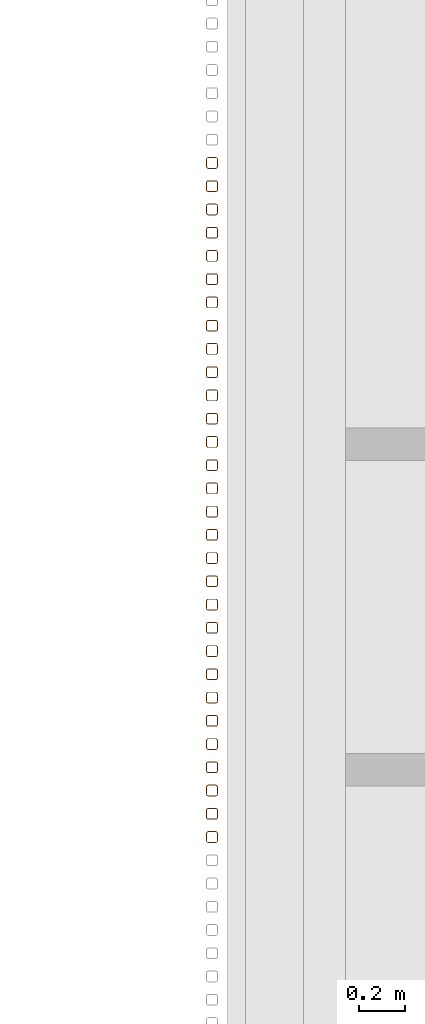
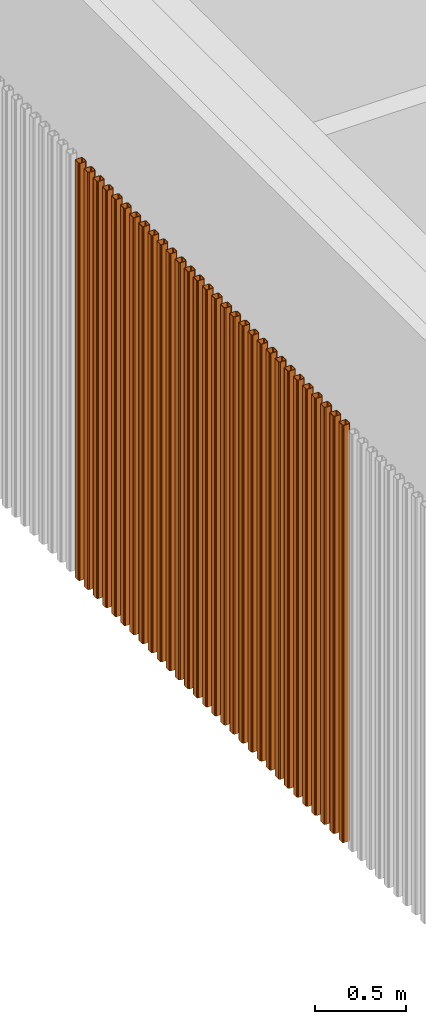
# One storey, part 78 of 112: 30 proxies.
"""IFC2X3 building model written with IfcOpenShell, lengths in millimetres."""

from ifc_helpers import new_model, entity, si_unit, converted_unit, derived_unit, money_unit, direction, frame, origin_with_axes, place, context, subcontext, project, spatial, faceted_brep, source, transform, mapped, material, type_object, element, save


model = new_model("IFC2X3")

# Units and contexts
model_context = context("Model", 3, precision=0.01, world=origin_with_axes(), true_north=direction((0.0, 1.0)))
body_context = subcontext(model_context, "Body", "Model", "MODEL_VIEW")
ifc_project = project(units=[si_unit("LENGTHUNIT", "METRE", prefix="MILLI"), si_unit("AREAUNIT", "SQUARE_METRE"), si_unit("VOLUMEUNIT", "CUBIC_METRE"), converted_unit("PLANEANGLEUNIT", "DEGREE", entity("IfcPlaneAngleMeasure", 0.0174532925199), si_unit("PLANEANGLEUNIT", "RADIAN"), dimensions=[0, 0, 0, 0, 0, 0, 0]), si_unit("SOLIDANGLEUNIT", "STERADIAN"), money_unit("EUR"), converted_unit("TIMEUNIT", "Year", entity("IfcTimeMeasure", 31556926.0), si_unit("TIMEUNIT", "SECOND"), dimensions=[0, 0, 1, 0, 0, 0, 0]), si_unit("MASSUNIT", "GRAM", prefix="KILO"), si_unit("THERMODYNAMICTEMPERATUREUNIT", "DEGREE_CELSIUS"), si_unit("LUMINOUSINTENSITYUNIT", "LUMEN"), si_unit("ENERGYUNIT", "JOULE", prefix="MEGA"), derived_unit("THERMALCONDUCTANCEUNIT", [(si_unit("POWERUNIT", "WATT"), 1), (si_unit("LENGTHUNIT", "METRE"), -1), (si_unit("THERMODYNAMICTEMPERATUREUNIT", "KELVIN"), -1)]), derived_unit("SPECIFICHEATCAPACITYUNIT", [(si_unit("ENERGYUNIT", "JOULE"), 1), (si_unit("MASSUNIT", "GRAM", prefix="KILO"), -1), (si_unit("THERMODYNAMICTEMPERATUREUNIT", "KELVIN"), -1)]), derived_unit("MASSDENSITYUNIT", [(si_unit("MASSUNIT", "GRAM", prefix="KILO"), 1), (si_unit("VOLUMEUNIT", "CUBIC_METRE"), -1)])], contexts=[model_context])

# Site, building, storey
site_placement = place(None, origin_with_axes())
site = spatial("IfcSite", under=ifc_project, at=site_placement, Name="Politse- ja Piirivalveameti ning Päästeameti ühishoone", CompositionType="ELEMENT")
building_placement = place(site_placement, origin_with_axes())
building = spatial("IfcBuilding", under=site, at=building_placement, Name="Politse- ja Piirivalveameti ning Päästeameti ühishoone", CompositionType="ELEMENT")
storey_placement = place(building_placement, origin_with_axes())
storey = spatial("IfcBuildingStorey", under=building, at=storey_placement, Name="Esimene korrus", CompositionType="ELEMENT", Elevation=0.0)

# Proxies
ifc_material = material(Name="ET-05_Teras")
building_element_proxy_type = type_object("IfcBuildingElementProxyType", Name="SHS Cold-Formed Column 23", PredefinedType="NOTDEFINED")
shared_shape = source(origin_with_axes(), body_context, "Body", "Brep", [
    faceted_brep([(17.0, -25.0, 0.0), (17.0, -25.0, 2800.0), (-17.0, -25.0, 2800.0), (-17.0, -25.0, 0.0), (22.6568542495, -22.6568542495, 0.0), (22.6568542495, -22.6568542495, 2800.0), (25.0, -17.0, 2800.0), (25.0, 17.0, 2800.0), (22.6568542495, 22.6568542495, 2800.0), (17.0, 25.0, 2800.0), (-17.0, 25.0, 2800.0), (-22.6568542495, 22.6568542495, 2800.0), (-25.0, 17.0, 2800.0), (-25.0, -17.0, 2800.0), (-22.6568542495, -22.6568542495, 2800.0), (17.0, -21.0, 2800.0), (-17.0, -21.0, 2800.0), (-19.8284271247, -19.8284271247, 2800.0), (-21.0, -17.0, 2800.0), (-21.0, 17.0, 2800.0), (-19.8284271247, 19.8284271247, 2800.0), (-17.0, 21.0, 2800.0), (17.0, 21.0, 2800.0), (19.8284271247, 19.8284271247, 2800.0), (21.0, 17.0, 2800.0), (21.0, -17.0, 2800.0), (19.8284271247, -19.8284271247, 2800.0), (-22.6568542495, -22.6568542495, 0.0), (-25.0, -17.0, 0.0), (-25.0, 17.0, 0.0), (-22.6568542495, 22.6568542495, 0.0), (-17.0, 25.0, 0.0), (17.0, 25.0, 0.0), (22.6568542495, 22.6568542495, 0.0), (25.0, 17.0, 0.0), (25.0, -17.0, 0.0), (17.0, -21.0, 0.0), (19.8284271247, -19.8284271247, 0.0), (21.0, -17.0, 0.0), (21.0, 17.0, 0.0), (19.8284271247, 19.8284271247, 0.0), (17.0, 21.0, 0.0), (-17.0, 21.0, 0.0), (-19.8284271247, 19.8284271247, 0.0), (-21.0, 17.0, 0.0), (-21.0, -17.0, 0.0), (-19.8284271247, -19.8284271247, 0.0), (-17.0, -21.0, 0.0)], [[[0, 1, 2, 3]], [[4, 5, 1, 0]], [[1, 5, 6, 7, 8, 9, 10, 11, 12, 13, 14, 2], [15, 16, 17, 18, 19, 20, 21, 22, 23, 24, 25, 26]], [[3, 2, 14, 27]], [[0, 3, 27, 28, 29, 30, 31, 32, 33, 34, 35, 4], [36, 37, 38, 39, 40, 41, 42, 43, 44, 45, 46, 47]], [[35, 6, 5, 4]], [[34, 7, 6, 35]], [[33, 8, 7, 34]], [[32, 9, 8, 33]], [[31, 10, 9, 32]], [[30, 11, 10, 31]], [[29, 12, 11, 30]], [[28, 13, 12, 29]], [[27, 14, 13, 28]], [[47, 16, 15, 36]], [[46, 17, 16, 47]], [[45, 18, 17, 46]], [[44, 19, 18, 45]], [[43, 20, 19, 44]], [[42, 21, 20, 43]], [[41, 22, 21, 42]], [[40, 23, 22, 41]], [[39, 24, 23, 40]], [[38, 25, 24, 39]], [[37, 26, 25, 38]], [[36, 15, 26, 37]]]),
])
for number, where, z_axis, x_axis in (
    (1, (59585.9088163, 32699.9520832, 0.0), (0.0, 0.0, 1.0), (1.0, 0.0, 0.0)),
    (2, (59585.9088163, 32599.9520832, 0.0), (0.0, 0.0, 1.0), (1.0, 0.0, 0.0)),
    (3, (59585.9088163, 32499.9520832, 0.0), (0.0, 0.0, 1.0), (1.0, 0.0, 0.0)),
    (4, (59585.9088163, 32399.9520832, 0.0), (0.0, 0.0, 1.0), (1.0, 0.0, 0.0)),
    (5, (59585.9088163, 32299.9520832, 0.0), (0.0, 0.0, 1.0), (1.0, 0.0, 0.0)),
    (6, (59585.9088163, 32199.9520832, 0.0), (0.0, 0.0, 1.0), (1.0, 0.0, 0.0)),
    (7, (59585.9088163, 32099.9520832, 0.0), (0.0, 0.0, 1.0), (1.0, 0.0, 0.0)),
    (8, (59585.9088163, 31999.9520832, 0.0), (0.0, 0.0, 1.0), (1.0, 0.0, 0.0)),
    (9, (59585.9088163, 31899.9520832, 0.0), (0.0, 0.0, 1.0), (1.0, 0.0, 0.0)),
    (10, (59585.9088163, 31799.9520832, 0.0), (0.0, 0.0, 1.0), (1.0, 0.0, 0.0)),
    (11, (59585.9088163, 31699.9520832, 0.0), (0.0, 0.0, 1.0), (1.0, 0.0, 0.0)),
    (12, (59585.9088163, 31599.9520832, 0.0), (0.0, 0.0, 1.0), (1.0, 0.0, 0.0)),
    (13, (59585.9088163, 31499.9520832, 0.0), (0.0, 0.0, 1.0), (1.0, 0.0, 0.0)),
    (14, (59585.9088163, 31399.9520832, 0.0), (0.0, 0.0, 1.0), (1.0, 0.0, 0.0)),
    (15, (59585.9088163, 31299.9520832, 0.0), (0.0, 0.0, 1.0), (1.0, 0.0, 0.0)),
    (16, (59585.9088163, 31199.9520832, 0.0), (0.0, 0.0, 1.0), (1.0, 0.0, 0.0)),
    (17, (59585.9088163, 31099.9520832, 0.0), (0.0, 0.0, 1.0), (1.0, 0.0, 0.0)),
    (18, (59585.9088163, 30999.9520832, 0.0), (0.0, 0.0, 1.0), (1.0, 0.0, 0.0)),
    (19, (59585.9088163, 30899.9520832, 0.0), (0.0, 0.0, 1.0), (1.0, 0.0, 0.0)),
    (20, (59585.9088163, 30799.9520832, 0.0), (0.0, 0.0, 1.0), (1.0, 0.0, 0.0)),
    (21, (59585.9088163, 30699.9520832, 0.0), (0.0, 0.0, 1.0), (1.0, 0.0, 0.0)),
    (22, (59585.9088163, 30599.9520832, 0.0), (0.0, 0.0, 1.0), (1.0, 0.0, 0.0)),
    (23, (59585.9088163, 30499.9520832, 0.0), (0.0, 0.0, 1.0), (1.0, 0.0, 0.0)),
    (24, (59585.9088163, 30399.9520832, 0.0), (0.0, 0.0, 1.0), (1.0, 0.0, 0.0)),
    (25, (59585.9088163, 30299.9520832, 0.0), (0.0, 0.0, 1.0), (1.0, 0.0, 0.0)),
    (26, (59585.9088163, 30199.9520832, 0.0), (0.0, 0.0, 1.0), (1.0, 0.0, 0.0)),
    (27, (59585.9088163, 30099.9520832, 0.0), (0.0, 0.0, 1.0), (1.0, 0.0, 0.0)),
    (28, (59585.9088163, 29999.9520832, 0.0), (0.0, 0.0, 1.0), (1.0, 0.0, 0.0)),
    (29, (59585.9088163, 29899.9520832, 0.0), (0.0, 0.0, 1.0), (1.0, 0.0, 0.0)),
    (30, (59585.9088163, 29799.9520832, 0.0), (0.0, 0.0, 1.0), (1.0, 0.0, 0.0)),
):
    element("IfcBuildingElementProxy", number, at=place(storey_placement, frame(where, z_axis=z_axis, x_axis=x_axis)), inside=storey, type_object=building_element_proxy_type, material=ifc_material, Name="Fassaadiribid", context=body_context, shape_type="MappedRepresentation", body=[
        mapped(shared_shape, transform((0.0, 0.0, 0.0))),
    ])

save(model, "model.ifc")
